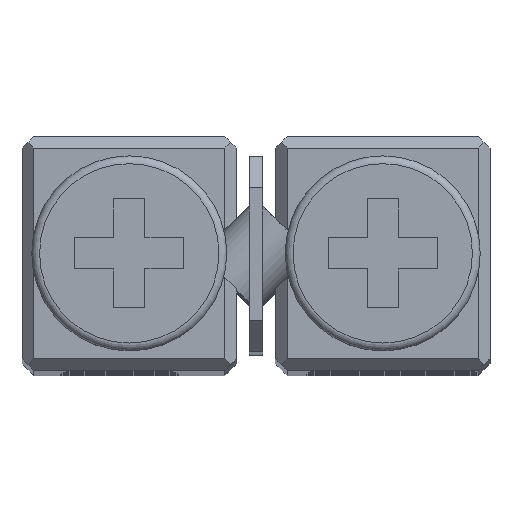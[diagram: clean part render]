
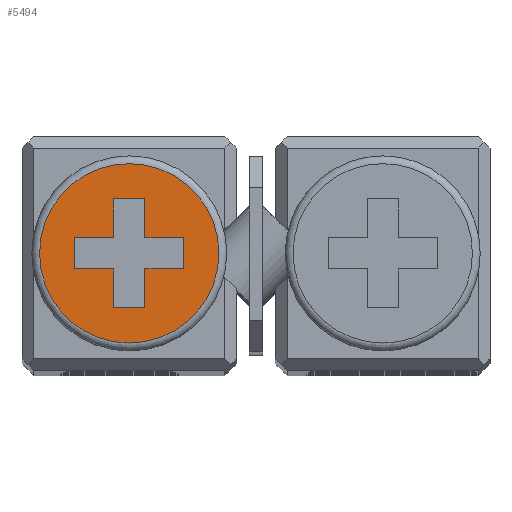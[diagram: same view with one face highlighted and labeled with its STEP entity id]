
A CAD part, top view. The second image highlights one B-rep face of the part: STEP entity #5494.
In plain terms, the highlighted planar face has unit normal (0, 0, 1).
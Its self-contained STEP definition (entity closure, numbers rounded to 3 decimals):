
#269=LINE('',#7945,#760);
#270=LINE('',#7948,#761);
#271=LINE('',#7950,#762);
#272=LINE('',#7952,#763);
#273=LINE('',#7954,#764);
#274=LINE('',#7956,#765);
#275=LINE('',#7958,#766);
#276=LINE('',#7960,#767);
#277=LINE('',#7962,#768);
#278=LINE('',#7964,#769);
#279=LINE('',#7966,#770);
#280=LINE('',#7968,#771);
#760=VECTOR('',#6467,1000.);
#761=VECTOR('',#6468,1000.);
#762=VECTOR('',#6469,1000.);
#763=VECTOR('',#6470,1000.);
#764=VECTOR('',#6471,1000.);
#765=VECTOR('',#6472,1000.);
#766=VECTOR('',#6473,1000.);
#767=VECTOR('',#6474,1000.);
#768=VECTOR('',#6475,1000.);
#769=VECTOR('',#6476,1000.);
#770=VECTOR('',#6477,1000.);
#771=VECTOR('',#6478,1000.);
#1381=ORIENTED_EDGE('',*,*,#2707,.F.);
#1382=ORIENTED_EDGE('',*,*,#2708,.F.);
#1383=ORIENTED_EDGE('',*,*,#2709,.F.);
#1384=ORIENTED_EDGE('',*,*,#2710,.F.);
#1385=ORIENTED_EDGE('',*,*,#2711,.F.);
#1386=ORIENTED_EDGE('',*,*,#2712,.F.);
#1387=ORIENTED_EDGE('',*,*,#2713,.F.);
#1388=ORIENTED_EDGE('',*,*,#2714,.F.);
#1389=ORIENTED_EDGE('',*,*,#2715,.F.);
#1390=ORIENTED_EDGE('',*,*,#2716,.F.);
#1391=ORIENTED_EDGE('',*,*,#2717,.F.);
#1392=ORIENTED_EDGE('',*,*,#2718,.F.);
#1393=ORIENTED_EDGE('',*,*,#2719,.T.);
#2707=EDGE_CURVE('',#3386,#3387,#269,.T.);
#2708=EDGE_CURVE('',#3388,#3386,#270,.T.);
#2709=EDGE_CURVE('',#3389,#3388,#271,.T.);
#2710=EDGE_CURVE('',#3390,#3389,#272,.T.);
#2711=EDGE_CURVE('',#3391,#3390,#273,.T.);
#2712=EDGE_CURVE('',#3392,#3391,#274,.T.);
#2713=EDGE_CURVE('',#3393,#3392,#275,.T.);
#2714=EDGE_CURVE('',#3394,#3393,#276,.T.);
#2715=EDGE_CURVE('',#3395,#3394,#277,.T.);
#2716=EDGE_CURVE('',#3396,#3395,#278,.T.);
#2717=EDGE_CURVE('',#3397,#3396,#279,.T.);
#2718=EDGE_CURVE('',#3387,#3397,#280,.T.);
#2719=EDGE_CURVE('',#3398,#3398,#3813,.T.);
#3386=VERTEX_POINT('',#7946);
#3387=VERTEX_POINT('',#7947);
#3388=VERTEX_POINT('',#7949);
#3389=VERTEX_POINT('',#7951);
#3390=VERTEX_POINT('',#7953);
#3391=VERTEX_POINT('',#7955);
#3392=VERTEX_POINT('',#7957);
#3393=VERTEX_POINT('',#7959);
#3394=VERTEX_POINT('',#7961);
#3395=VERTEX_POINT('',#7963);
#3396=VERTEX_POINT('',#7965);
#3397=VERTEX_POINT('',#7967);
#3398=VERTEX_POINT('',#7970);
#3813=CIRCLE('',#5801,2.3);
#4025=EDGE_LOOP('',(#1381,#1382,#1383,#1384,#1385,#1386,#1387,#1388,#1389,
#1390,#1391,#1392));
#4026=EDGE_LOOP('',(#1393));
#4386=FACE_BOUND('',#4025,.T.);
#4387=FACE_BOUND('',#4026,.T.);
#4704=PLANE('',#5800);
#5494=ADVANCED_FACE('',(#4386,#4387),#4704,.T.);
#5800=AXIS2_PLACEMENT_3D('',#7944,#6465,#6466);
#5801=AXIS2_PLACEMENT_3D('',#7969,#6479,#6480);
#6465=DIRECTION('',(0.,0.,1.));
#6466=DIRECTION('',(1.,0.,0.));
#6467=DIRECTION('',(-1.,0.,0.));
#6468=DIRECTION('',(0.,-1.,0.));
#6469=DIRECTION('',(-1.,0.,0.));
#6470=DIRECTION('',(0.,1.,0.));
#6471=DIRECTION('',(-1.,0.,0.));
#6472=DIRECTION('',(0.,1.,0.));
#6473=DIRECTION('',(1.,0.,0.));
#6474=DIRECTION('',(0.,1.,0.));
#6475=DIRECTION('',(1.,0.,0.));
#6476=DIRECTION('',(0.,-1.,0.));
#6477=DIRECTION('',(1.,0.,0.));
#6478=DIRECTION('',(0.,-1.,0.));
#6479=DIRECTION('',(0.,0.,1.));
#6480=DIRECTION('',(1.,0.,0.));
#7944=CARTESIAN_POINT('',(0.,0.,1.4));
#7945=CARTESIAN_POINT('',(-0.4,0.4,1.4));
#7946=CARTESIAN_POINT('',(-0.4,0.4,1.4));
#7947=CARTESIAN_POINT('',(-1.4,0.4,1.4));
#7948=CARTESIAN_POINT('',(-0.4,1.4,1.4));
#7949=CARTESIAN_POINT('',(-0.4,1.4,1.4));
#7950=CARTESIAN_POINT('',(0.4,1.4,1.4));
#7951=CARTESIAN_POINT('',(0.4,1.4,1.4));
#7952=CARTESIAN_POINT('',(0.4,0.4,1.4));
#7953=CARTESIAN_POINT('',(0.4,0.4,1.4));
#7954=CARTESIAN_POINT('',(1.4,0.4,1.4));
#7955=CARTESIAN_POINT('',(1.4,0.4,1.4));
#7956=CARTESIAN_POINT('',(1.4,-0.4,1.4));
#7957=CARTESIAN_POINT('',(1.4,-0.4,1.4));
#7958=CARTESIAN_POINT('',(0.4,-0.4,1.4));
#7959=CARTESIAN_POINT('',(0.4,-0.4,1.4));
#7960=CARTESIAN_POINT('',(0.4,-1.4,1.4));
#7961=CARTESIAN_POINT('',(0.4,-1.4,1.4));
#7962=CARTESIAN_POINT('',(-0.4,-1.4,1.4));
#7963=CARTESIAN_POINT('',(-0.4,-1.4,1.4));
#7964=CARTESIAN_POINT('',(-0.4,-0.4,1.4));
#7965=CARTESIAN_POINT('',(-0.4,-0.4,1.4));
#7966=CARTESIAN_POINT('',(-1.4,-0.4,1.4));
#7967=CARTESIAN_POINT('',(-1.4,-0.4,1.4));
#7968=CARTESIAN_POINT('',(-1.4,0.4,1.4));
#7969=CARTESIAN_POINT('',(0.,0.,1.4));
#7970=CARTESIAN_POINT('',(2.3,0.,1.4));
